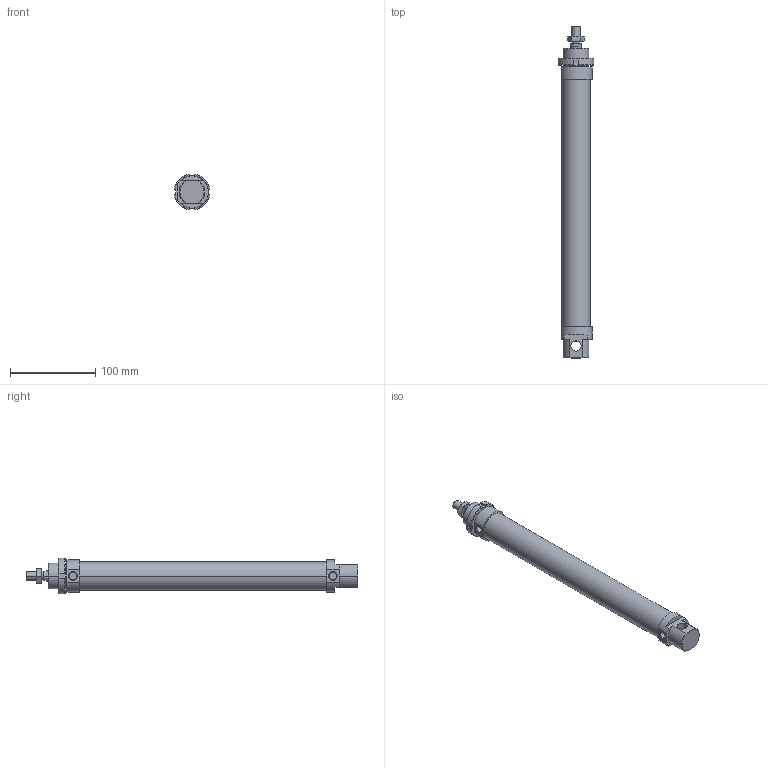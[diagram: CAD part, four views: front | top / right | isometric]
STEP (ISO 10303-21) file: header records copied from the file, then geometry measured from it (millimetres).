
FILE_DESCRIPTION((''),'2;1');
FILE_NAME('I:\DOC-EDP\Lib-3d\1200\CILINDRI\1280\1280_32_0250.stp','2003-04-07T19:04:58',('maffial1'),(''),'Autodesk Inventor (R) 6.0','Autodesk Inventor (R) 6.0','');
FILE_SCHEMA(('AUTOMOTIVE_DESIGN { 1 0 10303 214 1 1 1 1 }'));
Length unit declared in the file: millimetre
Products named in the file (5): 1280_32_0250; S1280_32_250; 1200_32_05; 1200_32_06; C1280_32_250
Assembly tree (4 placements, depth 2):
  1280_32_0250
    S1280_32_250
    1200_32_05
    1200_32_06
    C1280_32_250
Bounding box: 41.7 x 389 x 41.7 mm (x, y, z)
Volume: 323363.5 mm3; surface area: 68735.8 mm2
Topology: 4 solids, 4 shells, 122 faces, 286 edges, 180 vertices
Faces by surface type: plane 44, cone 32, cylinder 26, bspline 20
Entity records: 3831 total; most frequent: CARTESIAN_POINT 997, DIRECTION 582, ORIENTED_EDGE 572, EDGE_CURVE 286, AXIS2_PLACEMENT_3D 229, VERTEX_POINT 180, EDGE_LOOP 136, VECTOR 124
